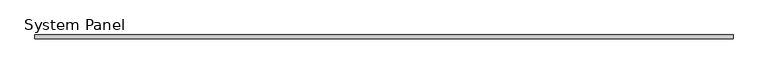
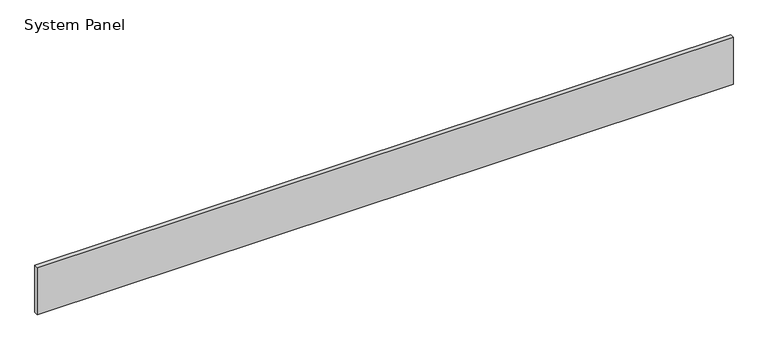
"""IFC4 building model written with IfcOpenShell, lengths in millimetres: plate geometry, System Panel : MetecnoSpan_80mm_Horizontal_Plain_Surfmist."""

import ifcopenshell
import ifcopenshell.guid

model = None  # the IFC model being written
_history = None  # IfcOwnerHistory: only IFC2X3 demands one
_inside = {}  # id of a spatial element -> (the spatial element, [elements in it])
_under = {}  # id of a project, library or spatial element -> (it, [spatial elements below it])
_declared = {}  # id of a project -> (the project, [libraries it declares])
_typed = {}  # id of a type object -> (the type object, [elements of that type])
_made_of = {}  # id of a material, layer set ... -> (it, [elements and type objects made of it])


def new_model(schema):
    """Start an empty IFC model of exactly this schema.

    Asked for "IFC4X3", IfcOpenShell would pick the latest addendum, in which some entities
    have other attributes; the version numbers below select the first issue.
    IFC2X3 requires an IfcOwnerHistory on every rooted entity: one is made here for all.
    """
    global model, _history
    if schema == "IFC4X3":
        model = ifcopenshell.file(schema_version=(4, 3, 0, 0))
    else:
        model = ifcopenshell.file(schema=schema)
    _inside.clear()
    _under.clear()
    _declared.clear()
    _typed.clear()
    _made_of.clear()
    _history = None
    if model.schema == "IFC2X3":
        org = make("IfcOrganization", Name="unknown")
        user = make(
            "IfcPersonAndOrganization",
            ThePerson=make("IfcPerson", FamilyName="unknown"),
            TheOrganization=org,
        )
        app = make(
            "IfcApplication",
            ApplicationDeveloper=org,
            Version="unknown",
            ApplicationFullName="unknown",
            ApplicationIdentifier="unknown",
        )
        _history = make(
            "IfcOwnerHistory",
            OwningUser=user,
            OwningApplication=app,
            ChangeAction="ADDED",
            CreationDate=0,
        )
    return model


def make(cls, **values):
    """One entity of the class cls with the attributes given. An attribute that is None is left unset."""
    return model.create_entity(
        cls, **{name: value for name, value in values.items() if value is not None}
    )


def rooted(cls, **values):
    """An entity with a GlobalId (a new one), such as an element, a storey or a relation."""
    return make(cls, GlobalId=ifcopenshell.guid.new(), OwnerHistory=_history, **values)


def si_unit(unit_type, name, prefix=None):
    """IfcSIUnit, for example si_unit("LENGTHUNIT", "METRE", prefix="MILLI")."""
    return make("IfcSIUnit", UnitType=unit_type, Prefix=prefix, Name=name)


def assignment(units):
    """IfcUnitAssignment: the units of a project."""
    return None if units is None else make("IfcUnitAssignment", Units=units)


def point(xyz):
    """IfcCartesianPoint."""
    return None if xyz is None else make("IfcCartesianPoint", Coordinates=xyz)


def direction(xyz):
    """IfcDirection."""
    return None if xyz is None else make("IfcDirection", DirectionRatios=xyz)


def frame(location, z_axis=None, x_axis=None):
    """IfcAxis2Placement3D, a coordinate frame: its origin and axes. An axis left out is left unset."""
    return make(
        "IfcAxis2Placement3D",
        Location=point(location),
        Axis=direction(z_axis),
        RefDirection=direction(x_axis),
    )


def origin():
    """The frame at (0, 0, 0) with its axes left unset."""
    return frame((0.0, 0.0, 0.0))


def origin_with_axes():
    """The frame at (0, 0, 0) with the z axis (0, 0, 1) and the x axis (1, 0, 0) written out."""
    return frame((0.0, 0.0, 0.0), z_axis=(0.0, 0.0, 1.0), x_axis=(1.0, 0.0, 0.0))


def place(relative_to, where):
    """IfcLocalPlacement: puts the frame where relative to a parent placement (None: the world)."""
    return make(
        "IfcLocalPlacement", PlacementRelTo=relative_to, RelativePlacement=where
    )


def context(
    kind, dimensions, precision=None, world=None, true_north=None, identifier=None
):
    """IfcGeometricRepresentationContext, for example the 3D "Model" context."""
    return make(
        "IfcGeometricRepresentationContext",
        ContextIdentifier=identifier,
        ContextType=kind,
        CoordinateSpaceDimension=dimensions,
        Precision=precision,
        WorldCoordinateSystem=world,
        TrueNorth=true_north,
    )


def project(units=None, contexts=None):
    """IfcProject with its units and contexts."""
    return rooted(
        "IfcProject",
        Name="project",
        RepresentationContexts=contexts,
        UnitsInContext=assignment(units),
    )


def spatial(cls, under=None, at=None, **own):
    """A site, building, storey or space (cls), placed at a placement, below another one or the project."""
    s = rooted(cls, ObjectPlacement=at, **own)
    if under is not None:
        _under.setdefault(under.id(), (under, []))[1].append(s)
    return s


def polyline(points):
    """IfcPolyline through the points."""
    return make("IfcPolyline", Points=[point(p) for p in points])


def outline(outer, holes=None, kind="AREA"):
    """IfcArbitraryClosedProfileDef: a profile drawn as a closed curve; with holes, ...WithVoids."""
    if holes is None:
        return make("IfcArbitraryClosedProfileDef", ProfileType=kind, OuterCurve=outer)
    return make(
        "IfcArbitraryProfileDefWithVoids",
        ProfileType=kind,
        OuterCurve=outer,
        InnerCurves=holes,
    )


def extrude(swept, where, along, depth):
    """IfcExtrudedAreaSolid: the profile swept, set in the frame where, extruded along a direction by depth."""
    return make(
        "IfcExtrudedAreaSolid",
        SweptArea=swept,
        Position=where,
        ExtrudedDirection=direction(along),
        Depth=depth,
    )


def shape(context_of_items, identifier, shape_type, items):
    """IfcShapeRepresentation: the items that make up one representation, for example the "Body"."""
    return make(
        "IfcShapeRepresentation",
        ContextOfItems=context_of_items,
        RepresentationIdentifier=identifier,
        RepresentationType=shape_type,
        Items=items,
    )


def source(mapping_origin, context_of_items, identifier, shape_type, items):
    """IfcRepresentationMap: a shape defined once, which mapped items show again and again."""
    return make(
        "IfcRepresentationMap",
        MappingOrigin=mapping_origin,
        MappedRepresentation=shape(context_of_items, identifier, shape_type, items),
    )


def transform(
    local_origin,
    x_axis=None,
    y_axis=None,
    z_axis=None,
    scale=None,
    scale2=None,
    scale3=None,
    uniform=True,
):
    """IfcCartesianTransformationOperator3D, or its non-uniform kind. x_axis, y_axis, z_axis: its Axis1, 2, 3."""
    if uniform:
        return make(
            "IfcCartesianTransformationOperator3D",
            Axis1=direction(x_axis),
            Axis2=direction(y_axis),
            LocalOrigin=point(local_origin),
            Scale=scale,
            Axis3=direction(z_axis),
        )
    return make(
        "IfcCartesianTransformationOperator3DnonUniform",
        Axis1=direction(x_axis),
        Axis2=direction(y_axis),
        LocalOrigin=point(local_origin),
        Scale=scale,
        Axis3=direction(z_axis),
        Scale2=scale2,
        Scale3=scale3,
    )


def mapped(mapping_source, mapping_target):
    """IfcMappedItem: shows the shape of a source again, moved by a transform."""
    return make(
        "IfcMappedItem", MappingSource=mapping_source, MappingTarget=mapping_target
    )


def made_of(thing, what):
    """Note that an element or type object is made of a material, layer set ...; save() writes the relation."""
    if what is not None:
        _made_of.setdefault(what.id(), (what, []))[1].append(thing)
    return thing


def element(
    cls,
    number,
    at=None,
    inside=None,
    cuts=None,
    type_object=None,
    material=None,
    context=None,
    identifier="Body",
    shape_type=None,
    held_by="IfcProductDefinitionShape",
    body=None,
    shapes=None,
    **own,
):
    """One element of the class cls, such as IfcWall. Its Tag is "e" and its number.

    at: its placement. inside: the storey or other place that contains it. cuts: it is an
    opening in that element (IfcRelVoidsElement). A single representation is given by context,
    identifier, shape_type and body (its items); several are given by shapes. held_by: the class
    of the entity that holds the representations. save() writes the other relations.
    """
    e = rooted(cls, Tag="e%d" % number, ObjectPlacement=at, **own)
    if body is not None:
        shapes = [shape(context, identifier, shape_type, body)]
    if shapes is not None:
        e.Representation = make(held_by, Representations=shapes)
    if inside is not None:
        _inside.setdefault(inside.id(), (inside, []))[1].append(e)
    if cuts is not None:
        rooted(
            "IfcRelVoidsElement", RelatingBuildingElement=cuts, RelatedOpeningElement=e
        )
    if type_object is not None:
        _typed.setdefault(type_object.id(), (type_object, []))[1].append(e)
    return made_of(e, material)


def aggregate(whole, parts):
    """IfcRelAggregates: a whole, such as a stair, and the parts it consists of."""
    return rooted("IfcRelAggregates", RelatingObject=whole, RelatedObjects=parts)


def save(model, path):
    """Write the relations noted so far, then the file.

    IfcRelAggregates (storeys below a building ...), IfcRelContainedInSpatialStructure (elements
    in a storey), IfcRelDefinesByType, IfcRelAssociatesMaterial and IfcRelDeclares: one each for
    every whole, place, type object, material and project.
    """
    for whole, parts in _under.values():
        aggregate(whole, parts)
    for where, things in _inside.values():
        rooted(
            "IfcRelContainedInSpatialStructure",
            RelatedElements=things,
            RelatingStructure=where,
        )
    for kind, things in _typed.values():
        rooted("IfcRelDefinesByType", RelatedObjects=things, RelatingType=kind)
    for what, things in _made_of.values():
        rooted("IfcRelAssociatesMaterial", RelatedObjects=things, RelatingMaterial=what)
    for by, libraries in _declared.values():
        rooted("IfcRelDeclares", RelatingContext=by, RelatedDefinitions=libraries)
    model.write(path)


def system_panel_2c778e41(model_context):
    return source(origin(), model_context, "Body", "SweptSolid", [
        extrude(outline(polyline([(7000.0, -80.0), (-7000.0, -80.0), (-7000.0, 0.0), (7000.0, 0.0), (7000.0, -80.0)])), origin_with_axes(), (0.0, 0.0, 1.0), 1000.0),
    ])


if __name__ == "__main__":
    model = new_model("IFC4")
    model_context = context("Model", 3, world=origin())
    ifc_project = project(units=[si_unit("LENGTHUNIT", "METRE", prefix="MILLI")], contexts=[model_context])
    site = spatial("IfcSite", under=ifc_project)
    building = spatial("IfcBuilding", under=site)
    placement = place(None, origin())
    system_panel_shape = system_panel_2c778e41(model_context)
    element("IfcPlate", 1, ObjectType="System Panel : MetecnoSpan_80mm_Horizontal_Plain_Surfmist", at=placement, inside=building, context=model_context, shape_type="MappedRepresentation", body=[
        mapped(system_panel_shape, transform((0.0, 0.0, 0.0), x_axis=(1.0, 0.0, 0.0), y_axis=(0.0, 1.0, 0.0), z_axis=(0.0, 0.0, 1.0))),
    ])
    save(model, "model.ifc")
